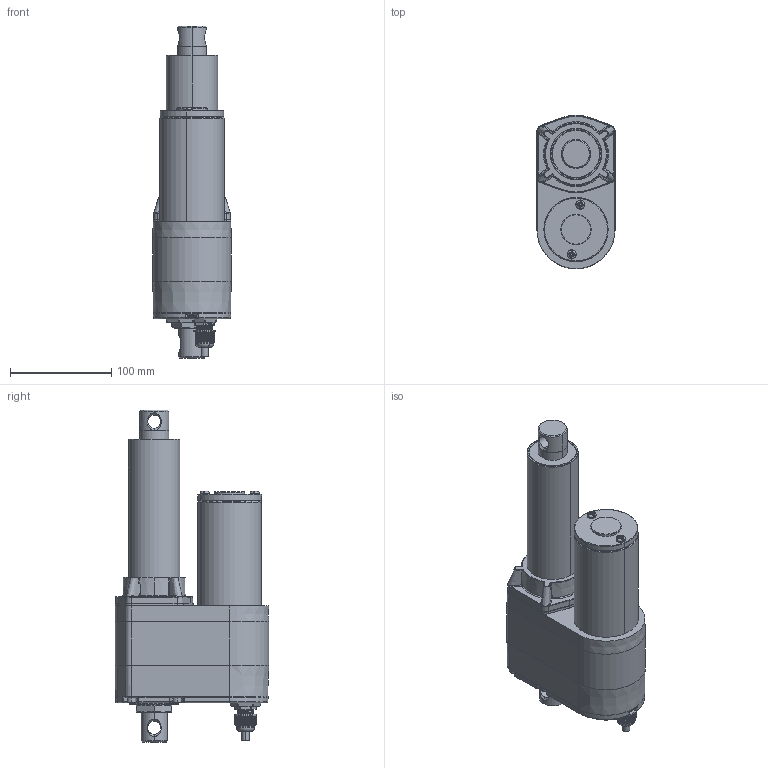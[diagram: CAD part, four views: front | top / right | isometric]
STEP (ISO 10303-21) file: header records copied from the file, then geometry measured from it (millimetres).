
FILE_DESCRIPTION (( 'STEP AP203' ), '1' );
FILE_NAME ('ID10-A-102-POT-IP69K.STEP', '2022-10-04T09:31:33', ( '' ), ( '' ), 'SwSTEP 2.0', 'SolidWorks 2020', '' );
FILE_SCHEMA (( 'CONFIG_CONTROL_DESIGN' ));
Products named in the file (3): ID10-A-POT-2-IP69K; ID10-A-POT-1-IP69K; ID10-A-102-POT-IP69K
Assembly tree (2 placements, depth 2):
  ID10-A-102-POT-IP69K
    ID10-A-POT-1-IP69K
    ID10-A-POT-2-IP69K
Bounding box: 77.3 x 151.8 x 327.5 mm (x, y, z)
Volume: 112834.7 mm3; surface area: 169090.4 mm2
Topology: 23 solids, 24 shells, 2285 faces, 5894 edges, 3693 vertices
Faces by surface type: plane 1108, cylinder 659, bspline 259, cone 137, torus 98, sphere 24
Entity records: 82905 total; most frequent: CARTESIAN_POINT 31084, ORIENTED_EDGE 11720, DIRECTION 9692, EDGE_CURVE 5860, VERTEX_POINT 3693, AXIS2_PLACEMENT_3D 3588, VECTOR 2516, LINE 2516
